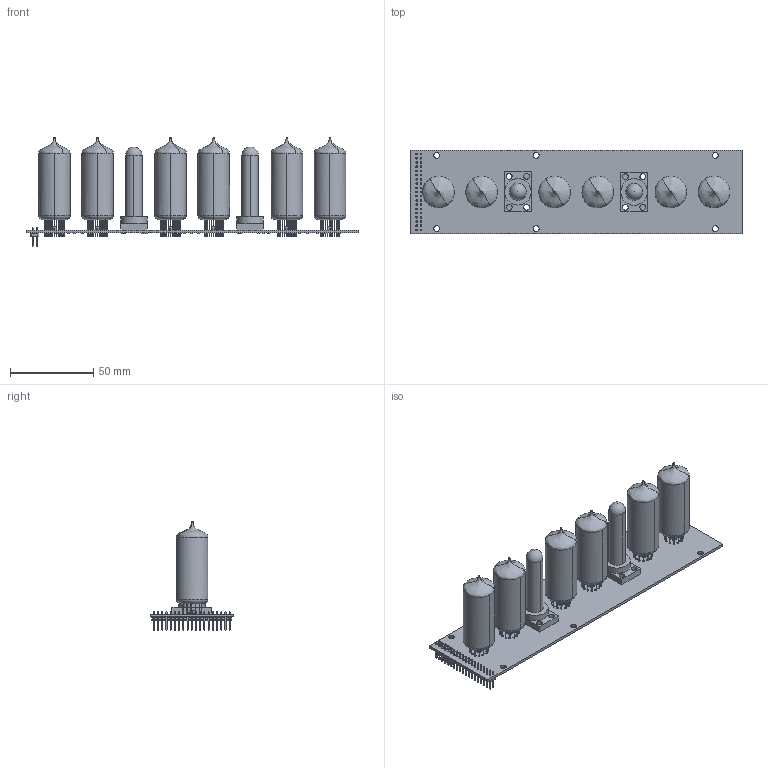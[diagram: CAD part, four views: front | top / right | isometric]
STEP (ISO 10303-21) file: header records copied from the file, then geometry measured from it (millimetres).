
FILE_DESCRIPTION(('Open CASCADE Model'),'2;1');
FILE_NAME('Open CASCADE Shape Model','2017-11-17T21:37:13',('Author'),( 'Open CASCADE'),'Open CASCADE STEP processor 6.8','Open CASCADE 6.8' ,'Unknown');
FILE_SCHEMA(('AUTOMOTIVE_DESIGN { 1 0 10303 214 1 1 1 1 }'));
Length unit declared in the file: millimetre
Products named in the file (58): PCB; Board; R34; User_Library-Chip_Resistor2; R33; R32; R31; R30; R29; MAIN; PLD-38; R22; R14; R6; R28; R27; R26; R25; R24; R23; R21; R20; R19; R17; R16; R15; R13; R12; NX5; in-14(body); NX4; NX3; NX2; D8; User_Library-KAA-3528; D7; D6; D5; D4; R11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
Assembly tree (104 placements, depth 3):
  PCB
    Board
    R34
      User_Library-Chip_Resistor2
    R33
      User_Library-Chip_Resistor2
    R32
      User_Library-Chip_Resistor2
    R31
      User_Library-Chip_Resistor2
    R30
      User_Library-Chip_Resistor2
    R29
      User_Library-Chip_Resistor2
    MAIN
      PLD-38
    R22
      User_Library-Chip_Resistor2
    R14
      User_Library-Chip_Resistor2
    R6
      User_Library-Chip_Resistor2
    R28
      User_Library-Chip_Resistor2
    R27
      User_Library-Chip_Resistor2
    R26
      User_Library-Chip_Resistor2
    R25
      User_Library-Chip_Resistor2
    R24
      User_Library-Chip_Resistor2
    R23
      User_Library-Chip_Resistor2
    R21
      User_Library-Chip_Resistor2
    R20
      User_Library-Chip_Resistor2
    R19
      User_Library-Chip_Resistor2
    R17
      User_Library-Chip_Resistor2
    R16
      User_Library-Chip_Resistor2
    R15
      User_Library-Chip_Resistor2
    R13
      User_Library-Chip_Resistor2
    R12
      User_Library-Chip_Resistor2
    NX5
      in-14(body)
    NX4
      in-14(body)
    NX3
      in-14(body)
    NX2
      in-14(body)
    D8
      User_Library-KAA-3528
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Bounding box: 200 x 50 x 65.81 mm (x, y, z)
Volume: 96271 mm3; surface area: 51056.3 mm2
Topology: 54 solids, 55 shells, 3370 faces, 7864 edges, 4428 vertices
Faces by surface type: plane 1902, cylinder 1156, sphere 276, bspline 24, torus 12
Full cylindrical faces by diameter (mm): 0.9 x118, 2 x4, 3.5 x10
Entity records: 47228 total; most frequent: CARTESIAN_POINT 7043, DIRECTION 6376, ORIENTED_EDGE 6272, EDGE_CURVE 3136, LINE 2696, VECTOR 2696, VERTEX_POINT 1922, AXIS2_PLACEMENT_3D 1840
